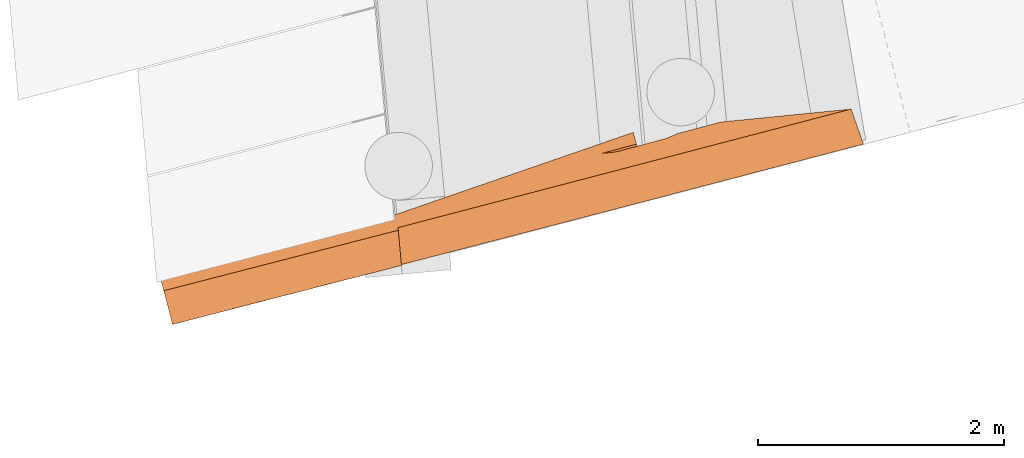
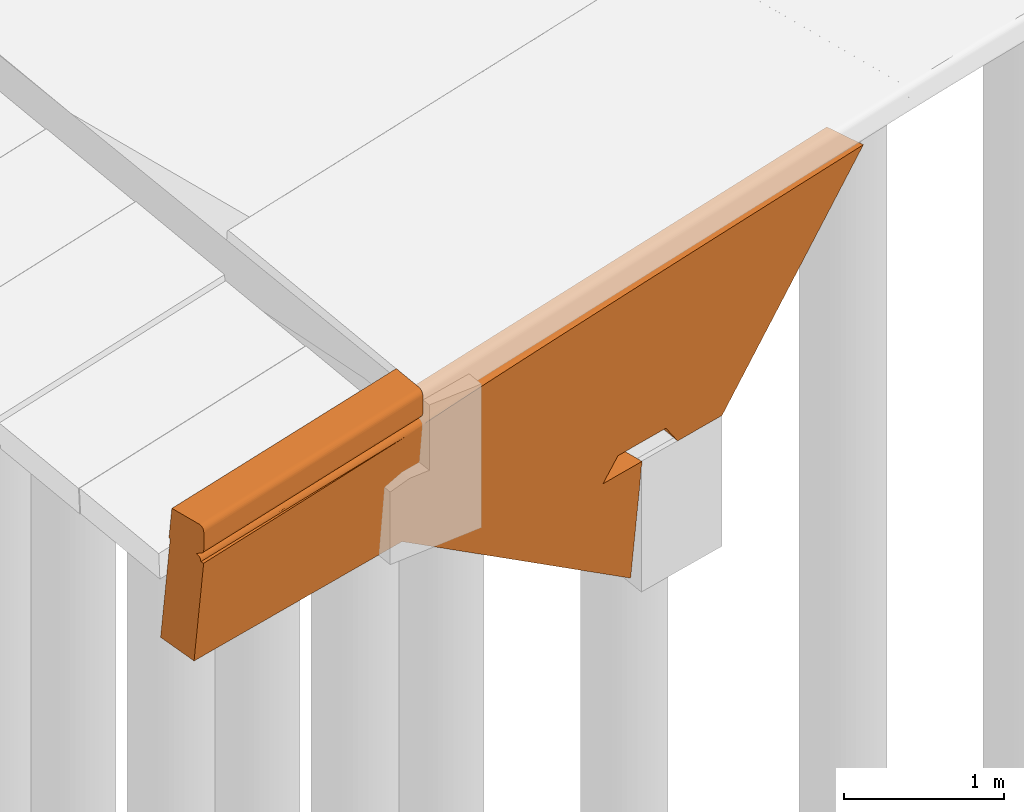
# One storey, part 14 of 15: 1 proxy.
"""IFC2X3 building model written with IfcOpenShell, lengths in millimetres."""

from ifc_helpers import new_model, entity, si_unit, converted_unit, derived_unit, direction, frame, origin, place, context, subcontext, project, spatial, faceted_brep, source, transform, mapped, material, type_object, type_shapes, element, save


model = new_model("IFC2X3")

# Units and contexts
model_context = context("Model", 3, precision=0.01, world=origin(), true_north=direction((6.12303176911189e-17, 1.0)))
body_context = subcontext(model_context, "Body", "Model", "MODEL_VIEW")
ifc_project = project(units=[si_unit("LENGTHUNIT", "METRE", prefix="MILLI"), si_unit("AREAUNIT", "SQUARE_METRE"), si_unit("VOLUMEUNIT", "CUBIC_METRE"), converted_unit("PLANEANGLEUNIT", "DEGREE", entity("IfcRatioMeasure", 0.0174532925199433), si_unit("PLANEANGLEUNIT", "RADIAN"), dimensions=[0, 0, 0, 0, 0, 0, 0]), si_unit("MASSUNIT", "GRAM", prefix="KILO"), derived_unit("MASSDENSITYUNIT", [(si_unit("MASSUNIT", "GRAM", prefix="KILO"), 1), (si_unit("LENGTHUNIT", "METRE"), -3)]), si_unit("TIMEUNIT", "SECOND"), si_unit("FREQUENCYUNIT", "HERTZ"), si_unit("THERMODYNAMICTEMPERATUREUNIT", "DEGREE_CELSIUS"), derived_unit("THERMALTRANSMITTANCEUNIT", [(si_unit("MASSUNIT", "GRAM", prefix="KILO"), 1), (si_unit("THERMODYNAMICTEMPERATUREUNIT", "KELVIN"), -1), (si_unit("TIMEUNIT", "SECOND"), -3)]), derived_unit("VOLUMETRICFLOWRATEUNIT", [(si_unit("LENGTHUNIT", "METRE"), 3), (si_unit("TIMEUNIT", "SECOND"), -1)]), si_unit("ELECTRICCURRENTUNIT", "AMPERE"), si_unit("ELECTRICVOLTAGEUNIT", "VOLT"), si_unit("POWERUNIT", "WATT"), si_unit("FORCEUNIT", "NEWTON", prefix="KILO"), si_unit("ILLUMINANCEUNIT", "LUX"), si_unit("LUMINOUSFLUXUNIT", "LUMEN"), si_unit("LUMINOUSINTENSITYUNIT", "CANDELA"), derived_unit("USERDEFINED", [(si_unit("MASSUNIT", "GRAM", prefix="KILO"), -1), (si_unit("LENGTHUNIT", "METRE"), -2), (si_unit("TIMEUNIT", "SECOND"), 3), (si_unit("LUMINOUSFLUXUNIT", "LUMEN"), 1)]), derived_unit("LINEARVELOCITYUNIT", [(si_unit("LENGTHUNIT", "METRE"), 1), (si_unit("TIMEUNIT", "SECOND"), -1)]), si_unit("PRESSUREUNIT", "PASCAL"), derived_unit("USERDEFINED", [(si_unit("LENGTHUNIT", "METRE"), -2), (si_unit("MASSUNIT", "GRAM", prefix="KILO"), 1), (si_unit("TIMEUNIT", "SECOND"), -2)])], contexts=[model_context])

# Site, building, storey
site_placement = place(None, origin())
site = spatial("IfcSite", under=ifc_project, at=site_placement, Name="Bruggen Achterburggracht Machinesloot", CompositionType="ELEMENT")
building_placement = place(site_placement, origin())
building = spatial("IfcBuilding", under=site, at=building_placement, Name="Bruggen Achterburggracht Machinesloot", CompositionType="ELEMENT")
storey_placement = place(building_placement, origin())
storey = spatial("IfcBuildingStorey", under=building, at=storey_placement, Name="00 begane grond", CompositionType="ELEMENT", Elevation=2.70716782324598e-13)

# Proxy
ifc_material = material(Name="00_PBT_MAT_beton t.p.g.")
building_element_proxy_type = type_object("IfcBuildingElementProxyType", Name="brug 1 vleugelwand", PredefinedType="NOTDEFINED", material=ifc_material)
shared_shape = source(origin(), body_context, "Body", "Brep", [
    faceted_brep([(1959.87306572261, 481.997808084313, 2428.92648551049), (1959.87306572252, 481.997808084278, 2566.93597365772), (1784.49340049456, 436.755674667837, 2557.44631371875), (1609.11374916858, 391.513544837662, 2547.956654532), (1433.7340978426, 346.271415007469, 2538.46699534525), (1258.35444651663, 301.029285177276, 2528.97733615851), (1143.54753400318, 271.412911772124, 2522.76522167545), (1028.74062148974, 241.796538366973, 2516.5531071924), (913.93372287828, 212.18016854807, 2510.34099346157), (799.126810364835, 182.563795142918, 2504.12887897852), (623.747145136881, 137.321661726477, 2494.63921903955), (448.367493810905, 92.0795318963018, 2485.1495598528), (272.987842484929, 46.8374020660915, 2475.65990066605), (97.6081911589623, 1.5952722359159, 2466.17024147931), (97.6081911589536, 1.5952722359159, 2328.16075333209), (243.624759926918, 39.2627012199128, 2336.06159851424), (389.641328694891, 76.9301302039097, 2343.96244369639), (490.166125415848, 102.862191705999, 2349.40176378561), (590.690922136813, 128.794253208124, 2354.84108387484), (691.21571885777, 154.726314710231, 2360.28040396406), (791.740515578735, 180.65837621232, 2365.71972405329), (937.757084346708, 218.325805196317, 2373.62056923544), (1083.77365311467, 255.993234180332, 2381.52141441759), (1229.79022188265, 293.660663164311, 2389.42225959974), (1375.80679065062, 331.328092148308, 2397.32310478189), (1521.8233594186, 368.995521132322, 2405.22394996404), (1667.83992818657, 406.662950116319, 2413.12479514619), (1813.85649695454, 444.330379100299, 2421.02564032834), (1822.54830991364, 452.613281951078, 2401.25132807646), (1959.11495294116, 490.298431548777, 2405.19296229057), (1959.52212124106, 485.84032079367, 2412.43496046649), (471.488243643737, 119.80557825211, 2313.94851706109), (558.680187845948, 142.298206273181, 2318.66640666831), (473.75988877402, 109.228262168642, 2322.39326032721), (384.296294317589, 97.3129489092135, 2309.23062717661), (1717.41040390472, 432.748751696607, 2387.07311685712), (1831.98246712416, 460.411462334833, 2395.05177068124), (1732.06712835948, 429.289385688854, 2396.32827128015), (1637.68638802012, 405.035400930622, 2391.07544922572), (1580.97297675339, 394.87836502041, 2382.27620796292), (224.030363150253, 36.4921970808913, 2322.43189069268), (97.349669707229, 2.58112120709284, 2319.7102050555), (95.5281557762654, 9.52730545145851, 2304.39035457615), (94.0452499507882, 15.1822372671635, 2298.21308391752), (221.819771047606, 44.9884118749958, 2307.98190934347), (323.82294974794, 65.9957239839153, 2320.15037134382), (183.243156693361, 29.7028555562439, 2312.5878535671), (1958.57622745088, 496.196970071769, 2399.07903419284), (1434.89065009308, 360.243525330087, 2371.45989870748), (1377.79835435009, 339.000733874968, 2375.51794488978), (1322.70647870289, 331.501891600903, 2365.22079476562), (1665.89814718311, 427.923695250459, 2378.57712607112), (335.707541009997, 76.3153777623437, 2312.31013096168), (1077.44556509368, 255.270140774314, 2373.36587512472), (1156.93579064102, 276.325456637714, 2375.48379682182), (238.279728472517, 59.6455206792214, 2301.32978215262), (96.6458219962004, 5.26518296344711, 2311.66664752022), (339.176631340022, 65.3882243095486, 2331.1738087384), (1811.91471302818, 465.591123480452, 2386.47797109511), (461.818597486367, 98.1017022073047, 2334.57567247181), (418.094174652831, 90.4252931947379, 2325.07767995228), (498.112950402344, 110.469714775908, 2330.36981912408), (1959.77883317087, 483.029566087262, 2420.47004067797), (1832.60402077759, 451.441418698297, 2409.49675206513), (1717.52383651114, 420.966593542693, 2405.71818143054), (864.876725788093, 201.340916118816, 2358.49125222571), (738.940367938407, 168.713186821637, 2352.12817589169), (1558.48253119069, 383.995012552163, 2387.77035175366), (1486.33528634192, 367.265206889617, 2381.02032831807), (92.2631575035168, 21.9780911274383, 2293.42893685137), (1957.93127887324, 503.258551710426, 2394.37881611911), (574.19941022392, 131.475146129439, 2332.35515848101), (536.610017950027, 117.645966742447, 2337.98391038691), (917.435062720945, 220.427684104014, 2350.34842779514), (1008.99201720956, 238.827084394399, 2365.356903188), (852.093829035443, 209.896042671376, 2339.92970725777), (735.324341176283, 179.478540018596, 2333.86700448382), (791.888703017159, 202.45826384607, 2331.28514157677), (968.424935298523, 240.156578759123, 2346.01067747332), (1025.71742606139, 248.820670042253, 2355.58238360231), (1260.97022674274, 308.038253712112, 2370.40867407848), (1308.13965606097, 315.80722498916, 2382.10708173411), (1025.09721818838, 262.618321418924, 2343.90387648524), (1089.81585730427, 271.028131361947, 2352.95879840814), (1236.23230407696, 296.228493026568, 2381.97290684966), (1216.6148551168, 293.50252353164, 2373.73474589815), (1448.93672574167, 352.083860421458, 2389.86122937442), (1594.7862737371, 390.367704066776, 2395.88507970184), (1491.51424853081, 382.938436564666, 2369.14134630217), (1374.9099909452, 352.858407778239, 2362.83197884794), (618.644437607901, 149.762068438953, 2327.22243862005), (690.725865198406, 160.990918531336, 2339.46651619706), (609.011110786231, 135.640399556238, 2343.72837852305), (553.569227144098, 119.907563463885, 2346.08485249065), (803.733796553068, 190.832098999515, 2344.5677832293), (1211.5098741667, 301.85491675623, 2360.04546085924), (1144.68617703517, 278.291290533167, 2363.73806265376), (1086.6377645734, 260.280667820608, 2366.01493865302), (675.284445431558, 172.378235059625, 2324.97577412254), (908.492960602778, 232.538292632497, 2337.59450903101), (1141.70147577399, 292.698350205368, 2350.21324393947), (1258.30573335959, 322.778378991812, 2356.52261139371), (1578.70619785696, 405.431065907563, 2373.85923618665), (1953.30148475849, 553.950452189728, 2367.84583769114), (79.5190165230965, 70.576759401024, 2266.45689730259), (1933.6906528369, 768.670656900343, 2608.05888764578), (1931.29480024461, 794.90299426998, 2369.88282649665), (18.9426100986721, 301.579593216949, 2266.40690786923), (25.5375217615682, 276.430473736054, 2504.81017690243), (1956.18702270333, 522.356519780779, 2606.07437294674), (87.4618540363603, 40.2874424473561, 2504.95907918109), (262.841514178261, 85.5295643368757, 2514.42398126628), (578.086446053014, 127.350949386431, 2502.58224675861), (530.575456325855, 119.133759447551, 2508.93370215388), (424.610783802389, 88.0048478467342, 2495.03470915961), (96.4976103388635, 5.83037517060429, 2483.09120227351), (97.2847573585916, 2.82865877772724, 2474.86953160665), (254.151068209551, 44.6573381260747, 2487.54429966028), (752.201604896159, 185.117337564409, 2531.15560553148), (908.731409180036, 227.802308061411, 2541.41661362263), (796.282785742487, 203.092829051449, 2538.05461265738), (1959.01954087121, 491.343104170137, 2591.3929133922), (1958.43924469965, 497.696802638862, 2597.55048613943), (1806.03661581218, 455.031598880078, 2586.45229115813), (250.162082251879, 53.488557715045, 2502.09452498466), (95.2794996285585, 10.4755339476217, 2490.44700334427), (216.818058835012, 39.1316175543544, 2493.42705977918), (1806.82923580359, 445.267626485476, 2571.74035570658), (1631.1579675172, 399.36670130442, 2560.65144881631), (1605.4277083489, 431.872246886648, 2587.07029636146), (1632.20914838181, 427.25084857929, 2586.82552803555), (1780.80736598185, 477.114378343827, 2596.55995588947), (1959.46481590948, 486.467760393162, 2583.99778608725), (1841.9830357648, 458.487958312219, 2581.53886217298), (352.005195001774, 86.9065582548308, 2513.10029907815), (523.03150397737, 132.403047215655, 2523.15822623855), (439.464644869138, 120.411427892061, 2522.52547636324), (1361.82530624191, 328.751121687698, 2542.14606922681), (1479.72703396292, 360.3862933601, 2552.69793159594), (1344.26373733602, 327.217378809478, 2549.62213773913), (1459.52689128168, 394.234678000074, 2579.17571441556), (1313.62607421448, 356.5971091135, 2571.28113246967), (1388.32955348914, 368.738628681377, 2574.66291601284), (1840.83443819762, 471.155587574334, 2593.76908431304), (1957.75141723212, 505.227867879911, 2602.17872033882), (1959.75393271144, 483.302202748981, 2575.71490096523), (698.645106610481, 157.556724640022, 2505.75326597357), (1705.87133519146, 436.422005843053, 2586.51586375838), (1804.69740690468, 470.045122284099, 2595.62222965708), (1666.28958143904, 419.045508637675, 2578.95117458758), (1956.98864607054, 513.579496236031, 2605.05761836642), (1045.43952961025, 270.378858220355, 2553.0422926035), (1108.52488128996, 278.959277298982, 2551.94725210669), (454.924188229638, 107.892135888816, 2514.61363296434), (595.550326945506, 142.55137298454, 2520.74878000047), (213.715066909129, 51.2444331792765, 2505.62492019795), (93.684412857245, 16.5582579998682, 2496.5782622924), (91.786660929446, 23.7951691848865, 2501.17736734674), (1707.00496047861, 423.711163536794, 2574.2989805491), (246.454872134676, 67.8975621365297, 2511.24801508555), (89.6779310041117, 31.8366265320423, 2504.01011366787), (359.861683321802, 76.0176197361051, 2501.14529429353), (408.742331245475, 123.16713322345, 2522.31856321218), (554.64314831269, 160.804702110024, 2530.21314515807), (581.363411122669, 158.207856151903, 2530.5061380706), (731.635929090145, 199.146924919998, 2539.0958949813), (698.054290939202, 182.801287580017, 2535.10011275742), (874.312764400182, 229.33455679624, 2545.03510950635), (1211.14500915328, 318.791817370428, 2564.08891099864), (1390.46563211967, 360.938111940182, 2572.37483664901), (1482.53745876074, 371.73413194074, 2569.09364364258), (1541.60644008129, 395.337219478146, 2578.37005899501), (1369.12150930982, 344.167110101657, 2564.45704521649), (1036.33919564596, 247.905324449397, 2533.20994328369), (1030.3233602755, 243.399548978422, 2524.88501226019), (1142.40744712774, 273.377358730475, 2534.46944754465), (1542.71381214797, 380.630473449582, 2564.34241867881), (1198.27012555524, 292.760565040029, 2547.18832626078), (1258.75869548, 303.174858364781, 2540.13257217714), (1502.30416478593, 393.901216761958, 2579.8433107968), (1333.77218163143, 329.751290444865, 2557.20346145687), (1251.51238542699, 314.282963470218, 2558.47007316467), (1200.20174841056, 307.831207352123, 2560.20325491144), (1040.2041023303, 255.002297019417, 2542.46479157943), (848.679519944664, 203.815851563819, 2529.95794540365), (705.172260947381, 166.880616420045, 2522.30209142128), (709.772147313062, 163.207063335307, 2514.58912707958), (1167.72525714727, 318.959540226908, 2563.38655052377), (1079.67538946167, 287.758330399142, 2557.69577593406), (806.423616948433, 186.327125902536, 2515.16708623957), (924.090897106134, 217.337163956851, 2523.42063593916), (813.263700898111, 190.927861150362, 2522.24634432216), (671.438471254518, 190.934019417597, 2536.53285101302), (905.029117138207, 251.192654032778, 2549.17226272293), (788.233794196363, 221.063336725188, 2542.85255686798), (646.125019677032, 161.821455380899, 2528.41301646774), (1021.82444008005, 281.321971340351, 2555.49196857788)], [[[0, 1, 2, 3, 4, 5, 6, 7, 8, 9, 10, 11, 12, 13, 14, 15, 16, 17, 18, 19, 20, 21, 22, 23, 24, 25, 26, 27]], [[28, 29, 30]], [[31, 32, 33, 34]], [[35, 36, 37]], [[35, 38, 39]], [[40, 15, 41]], [[42, 43, 44]], [[44, 45, 46]], [[47, 29, 36]], [[48, 49, 50]], [[35, 39, 51]], [[33, 52, 34]], [[53, 54, 22]], [[55, 52, 44]], [[46, 40, 56]], [[57, 40, 45]], [[36, 58, 47]], [[59, 60, 61]], [[30, 62, 63]], [[40, 41, 56]], [[27, 64, 63]], [[65, 20, 66]], [[39, 67, 68]], [[42, 44, 46]], [[15, 14, 41]], [[36, 29, 28]], [[62, 0, 27]], [[43, 69, 55]], [[58, 70, 47]], [[16, 15, 57]], [[37, 63, 64]], [[63, 62, 27]], [[45, 44, 52]], [[44, 43, 55]], [[51, 58, 35]], [[37, 28, 63]], [[71, 72, 61]], [[73, 74, 65]], [[75, 76, 77]], [[78, 79, 73]], [[80, 49, 81]], [[82, 83, 78]], [[84, 54, 85]], [[81, 86, 24]], [[38, 87, 67]], [[88, 48, 89]], [[64, 26, 87]], [[57, 60, 59]], [[90, 76, 91]], [[48, 39, 68]], [[25, 86, 87]], [[72, 92, 93]], [[42, 46, 56]], [[71, 33, 90]], [[94, 65, 66]], [[73, 75, 78]], [[24, 86, 25]], [[87, 26, 25]], [[49, 86, 81]], [[95, 80, 96]], [[40, 57, 15]], [[22, 54, 23]], [[84, 81, 24]], [[16, 57, 59]], [[38, 37, 64]], [[26, 64, 27]], [[23, 54, 84]], [[97, 74, 79]], [[97, 53, 74]], [[21, 65, 74]], [[20, 65, 21]], [[21, 53, 22]], [[94, 73, 65]], [[91, 66, 92]], [[66, 19, 92]], [[91, 92, 71]], [[17, 59, 93]], [[98, 77, 76]], [[61, 60, 33]], [[90, 98, 76]], [[98, 90, 32]], [[73, 94, 75]], [[87, 38, 64]], [[91, 71, 90]], [[91, 76, 94]], [[99, 78, 75]], [[82, 78, 99]], [[75, 77, 99]], [[83, 79, 78]], [[96, 83, 95]], [[83, 100, 95]], [[96, 85, 54]], [[80, 50, 49]], [[75, 94, 76]], [[66, 91, 94]], [[73, 79, 74]], [[79, 83, 96]], [[101, 95, 100]], [[83, 82, 100]], [[48, 50, 89]], [[49, 48, 68]], [[101, 50, 95]], [[39, 48, 88]], [[89, 50, 101]], [[80, 95, 50]], [[68, 86, 49]], [[87, 86, 67]], [[60, 45, 52]], [[34, 52, 55]], [[36, 35, 58]], [[102, 51, 39, 88]], [[18, 92, 19]], [[66, 20, 19]], [[40, 46, 45]], [[63, 28, 30]], [[28, 37, 36]], [[90, 33, 32]], [[37, 38, 35]], [[38, 67, 39]], [[68, 67, 86]], [[33, 60, 52]], [[45, 60, 57]], [[59, 61, 72]], [[71, 61, 33]], [[17, 16, 59]], [[92, 72, 71]], [[72, 93, 59]], [[18, 93, 92]], [[93, 18, 17]], [[23, 84, 24]], [[80, 81, 85]], [[84, 85, 81]], [[80, 85, 96]], [[96, 54, 97]], [[74, 53, 21]], [[53, 97, 54]], [[96, 97, 79]], [[103, 70, 58, 51, 102, 88, 89, 101, 100, 82, 99, 77, 98, 32, 31, 34, 55, 69, 104]], [[105, 106, 107, 108]], [[109, 105, 108]], [[108, 110, 111]], [[112, 113, 114]], [[115, 116, 117]], [[118, 119, 120]], [[121, 122, 123]], [[124, 125, 126]], [[127, 128, 2]], [[129, 130, 131]], [[11, 114, 12]], [[132, 121, 133]], [[134, 135, 136]], [[137, 138, 139]], [[140, 141, 142]], [[143, 122, 144]], [[2, 1, 145]], [[112, 10, 146]], [[147, 123, 143]], [[117, 12, 114]], [[131, 130, 148]], [[123, 147, 149]], [[144, 150, 148]], [[151, 119, 152]], [[153, 135, 134]], [[153, 154, 135]], [[124, 155, 156]], [[156, 155, 157]], [[127, 133, 158]], [[124, 156, 125]], [[134, 159, 155]], [[111, 110, 160]], [[134, 124, 153]], [[127, 145, 132]], [[127, 158, 128]], [[160, 157, 159]], [[136, 159, 134]], [[144, 148, 143]], [[150, 109, 131]], [[126, 125, 115]], [[116, 13, 12]], [[126, 117, 161]], [[114, 161, 117]], [[117, 116, 12]], [[121, 123, 133]], [[158, 123, 149]], [[159, 111, 160]], [[162, 111, 136, 163]], [[130, 147, 148]], [[148, 150, 131]], [[127, 2, 145]], [[3, 2, 128]], [[159, 136, 111]], [[164, 163, 136]], [[165, 166, 167]], [[168, 169, 142]], [[170, 171, 172]], [[173, 174, 175]], [[138, 4, 3]], [[176, 128, 158]], [[170, 176, 149]], [[138, 176, 139]], [[139, 177, 178]], [[149, 147, 171]], [[142, 169, 179]], [[129, 179, 130]], [[171, 147, 130]], [[170, 172, 180]], [[152, 181, 182]], [[157, 155, 159]], [[134, 155, 124]], [[122, 143, 123]], [[147, 143, 148]], [[132, 133, 127]], [[158, 133, 123]], [[153, 161, 113]], [[114, 11, 112]], [[113, 161, 114]], [[183, 184, 173]], [[137, 139, 178]], [[154, 113, 185]], [[186, 113, 112]], [[139, 180, 177]], [[152, 177, 181]], [[119, 184, 183]], [[168, 187, 188]], [[5, 178, 6]], [[189, 146, 9]], [[169, 171, 179]], [[128, 176, 138]], [[139, 176, 180]], [[174, 6, 175]], [[177, 173, 175]], [[174, 8, 7, 6]], [[189, 190, 191]], [[128, 138, 3]], [[4, 138, 137]], [[185, 118, 154]], [[120, 167, 166]], [[184, 119, 118]], [[165, 192, 164]], [[188, 193, 167]], [[151, 167, 119]], [[167, 194, 165]], [[186, 112, 146]], [[10, 112, 11]], [[137, 5, 4]], [[175, 6, 178]], [[179, 129, 140]], [[169, 182, 181]], [[151, 168, 188]], [[168, 142, 141]], [[142, 179, 140]], [[130, 179, 171]], [[136, 135, 164]], [[118, 195, 154]], [[185, 191, 184]], [[195, 135, 154]], [[137, 178, 5]], [[175, 178, 177]], [[118, 185, 184]], [[186, 185, 113]], [[186, 146, 189]], [[146, 10, 9]], [[186, 189, 191]], [[189, 8, 190]], [[186, 191, 185]], [[184, 191, 190]], [[158, 149, 176]], [[170, 149, 171]], [[154, 153, 113]], [[161, 153, 124]], [[124, 126, 161]], [[117, 126, 115]], [[183, 177, 152]], [[181, 177, 180]], [[181, 180, 172]], [[170, 180, 176]], [[172, 169, 181]], [[169, 172, 171]], [[192, 163, 164]], [[166, 164, 135]], [[194, 192, 165]], [[196, 193, 188, 187]], [[166, 165, 164]], [[183, 152, 119]], [[168, 151, 182]], [[152, 182, 151]], [[168, 182, 169]], [[8, 189, 9]], [[190, 174, 173]], [[190, 173, 184]], [[183, 173, 177]], [[190, 8, 174]], [[193, 194, 167]], [[151, 188, 167]], [[168, 141, 187]], [[195, 166, 135]], [[166, 195, 120]], [[167, 120, 119]], [[118, 120, 195]], [[106, 103, 104, 107]], [[125, 156, 157, 160, 110, 108, 107, 104, 69, 43, 42, 56, 41, 14, 13, 116, 115]], [[150, 144, 122, 121, 132, 145, 1, 0, 62, 30, 29, 47, 70, 103, 106, 105, 109]], [[108, 111, 162, 163, 192, 194, 193, 196, 187, 141, 140, 129, 131]], [[108, 131, 109]]]),
    faceted_brep([(5618.22194929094, 1754.54200069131, 2569.27052434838), (4555.62338941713, 1648.66409277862, 977.889462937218), (4205.36201439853, 1554.90922741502, 977.615295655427), (4114.74163289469, 1515.59741047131, 1111.66034831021), (3703.72020820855, 1405.54271679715, 1111.66034831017), (3587.94932814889, 1393.26951399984, 944.850058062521), (3870.74519615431, 1468.99065834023, 944.850058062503), (3845.28136662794, 1564.60728056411, 32.3413179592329), (1778.867108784, 850.093363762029, 1468.45634915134), (0.0, 373.815581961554, 1468.18971720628), (21.9515410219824, 290.105298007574, 2266.25683531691), (1849.13049880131, 460.89072607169, 2320.32566460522), (97.373684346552, 2.48954347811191, 2225.47565631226), (75.6542830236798, 85.314582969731, 1435.84817624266), (1856.00919240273, 561.990711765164, 1436.11503119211), (3922.42345024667, 1276.50462856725, 0.0), (3942.75128535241, 1200.17365376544, 728.457877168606), (3944.56962825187, 1180.17004350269, 910.991066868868), (3947.84943464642, 1181.03011470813, 911.152541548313), (3948.78977393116, 1177.49914282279, 944.850058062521), (3612.97103567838, 1087.58064673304, 944.850058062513), (3728.74191573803, 1099.85384953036, 1111.66034831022), (4139.76334042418, 1209.90854320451, 1111.66034831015), (4252.26388495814, 1258.71214278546, 945.250307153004), (4632.76547303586, 1360.56144078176, 945.548144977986), (5717.95171622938, 1468.68999794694, 2570.75723214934), (4895.70283728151, 1253.52322628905, 2526.23603357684), (4696.96070682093, 1201.54170694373, 2515.24796967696), (4537.3271223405, 1159.78912916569, 2506.42214083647), (4358.95499239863, 1113.17204342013, 2496.23419079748), (4180.58286245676, 1066.55495767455, 2486.04624075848), (4005.95700791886, 1020.95372570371, 2475.74466900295), (3831.33115338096, 975.35249373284, 2465.44309724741), (3495.30999271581, 887.680139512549, 2444.95120768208), (3178.04000803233, 804.978299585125, 2424.90724160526), (2884.73375624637, 728.605715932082, 2405.64050944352), (2620.21008441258, 659.817144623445, 2387.46755213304), (2388.81495893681, 599.742740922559, 2370.68694054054), (2194.35006393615, 549.36949150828, 2355.57437012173), (2040.0103418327, 509.524998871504, 2342.37813140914), (1928.33150235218, 480.86388429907, 2331.31503074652), (1861.14836232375, 463.857032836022, 2322.56682828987), (80.995379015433, 64.9467800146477, 2266.43549897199), (295.100054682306, 117.801450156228, 2277.98853925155), (509.205052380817, 170.656199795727, 2289.54159690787), (723.310050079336, 223.510949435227, 2301.09465456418), (937.414725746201, 276.365619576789, 2312.64769484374), (1284.67208256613, 362.09085183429, 2331.38562393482), (1631.92943938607, 447.816084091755, 2350.1235530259), (1825.79635794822, 495.674786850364, 2360.58456847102), (2019.66295447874, 543.533410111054, 2371.04556653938), (2213.52955100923, 591.392033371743, 2381.50656460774), (2407.39646957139, 639.250736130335, 2391.96758005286), (2601.26338813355, 687.109438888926, 2402.42859549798), (2795.1303066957, 734.968141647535, 2412.8896109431), (2988.99722525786, 782.826844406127, 2423.35062638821), (3182.86382178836, 830.685467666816, 2433.81162445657), (3396.96881948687, 883.540217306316, 2445.36468211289), (3611.07349515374, 936.394887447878, 2456.91772239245), (3825.17849285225, 989.249637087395, 2468.47078004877), (4039.28349055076, 1042.10438672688, 2480.02383770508), (4253.38816621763, 1094.95905686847, 2491.57687798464), (4467.49316391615, 1147.81380650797, 2503.12993564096), (4681.59816161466, 1200.66855614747, 2514.68299329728), (2374.16915448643, 602.630755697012, 2378.15432707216), (2111.75529877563, 535.170006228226, 2361.10333747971), (605.183245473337, 178.929185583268, 2291.35895608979), (326.023925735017, 110.017317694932, 2276.29661373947), (404.195570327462, 120.209969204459, 2275.22598621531), (889.750970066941, 251.928876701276, 2307.77031827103), (632.937613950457, 193.945962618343, 2295.38770655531), (403.97276406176, 137.033899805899, 2282.95210395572), (1175.07292314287, 295.759414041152, 2294.81485652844), (1411.07587644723, 356.840794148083, 2315.10880050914), (1137.65291750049, 290.332386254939, 2302.23447206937), (1954.27068847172, 491.87841415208, 2346.21449038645), (3213.01484950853, 824.966692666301, 2432.96024271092), (2888.80367162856, 740.711706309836, 2413.69115053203), (1460.13446661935, 397.706161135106, 2339.93048124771), (83.5644438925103, 55.1498755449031, 2264.97204577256), (85.9548795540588, 46.0341579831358, 2260.98317042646), (2524.98276898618, 650.540782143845, 2393.88408229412), (2601.26567346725, 661.747851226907, 2393.12225721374), (3721.63242390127, 955.83091105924, 2461.92653508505), (3492.33061617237, 897.124397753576, 2449.03996822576), (1738.32565603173, 434.788004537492, 2325.13843798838), (1632.71294172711, 407.464622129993, 2310.24050422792), (90.6083804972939, 28.2884386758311, 2237.18883878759), (447.406560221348, 118.104691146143, 2261.29148607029), (89.5959992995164, 32.1490659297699, 2246.62160114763), (1517.78271576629, 380.235923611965, 2312.81138395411), (1666.89120526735, 419.800330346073, 2328.51799625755), (1560.51190769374, 402.650779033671, 2335.08965411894), (1341.43044720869, 344.58819132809, 2319.03383262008), (1552.6800157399, 395.198705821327, 2328.41980875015), (88.0102375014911, 38.1962300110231, 2254.72993562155), (340.855011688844, 97.1204652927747, 2264.465564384), (1404.27752113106, 351.072211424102, 2297.91418016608), (1281.46909122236, 336.610372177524, 2322.43572175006), (1749.05417461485, 446.007291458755, 2341.97128068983), (2165.48591442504, 554.964161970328, 2370.23086702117), (815.548471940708, 207.985827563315, 2278.60969597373), (947.401465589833, 238.286102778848, 2273.2612506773), (2973.13899761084, 770.894216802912, 2421.50265088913), (1072.02749991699, 280.184294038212, 2306.88159755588), (2442.53037461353, 638.612008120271, 2392.56278922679), (2694.58481508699, 700.332854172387, 2406.03233569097), (707.504761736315, 187.623264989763, 2284.23753358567), (615.561779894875, 170.178791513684, 2284.82253438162), (519.193901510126, 132.577203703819, 2250.155266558), (411.588707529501, 106.805174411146, 2251.5653342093), (305.087512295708, 79.7221105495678, 2238.6021338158), (642.346914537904, 163.744792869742, 2263.88793377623), (733.295076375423, 185.431009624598, 2261.7081179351), (1918.11695548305, 494.626423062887, 2357.42790679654), (838.660927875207, 225.820871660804, 2297.34943566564), (1175.83688618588, 294.678513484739, 2285.58757473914), (927.034644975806, 240.212645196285, 2293.89244059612), (2157.93398750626, 563.461715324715, 2375.63857523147), (1709.55846706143, 443.676080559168, 2346.55900590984), (1513.35251546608, 397.561291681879, 2337.50095909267), (1780.40270689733, 471.997114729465, 2355.89762207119), (1217.10977091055, 333.547325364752, 2325.70321250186), (1043.02492109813, 281.150908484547, 2311.93451720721), (837.282682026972, 231.977479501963, 2301.79229471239), (1321.39766518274, 352.959035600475, 2328.7064302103), (90.9811230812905, 26.8670173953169, 2227.0490010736), (2118.22280140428, 561.01938992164, 2375.61443741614), (90.9810079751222, 26.867456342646, 2225.45631239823), (3947.84471513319, 1181.02887709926, 944.850058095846), (3942.76795757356, 1199.99024247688, 944.850058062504), (3944.56962825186, 1180.1700435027, 944.850058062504)], [[[0, 1, 2, 3, 4, 5, 6, 7, 8, 9, 10]], [[11, 12, 13, 14, 15, 16, 17, 18, 19, 20, 21, 22, 23, 24, 25, 26, 27, 28, 29, 30, 31, 32, 33, 34, 35, 36, 37, 38, 39, 40, 41]], [[1, 0, 25, 24]], [[9, 8, 14, 13]], [[10, 42, 43, 44, 45, 46, 47, 48, 49, 50, 51, 52, 53, 54, 55, 56, 57, 58, 59, 60, 61, 62, 63, 26, 25, 0]], [[64, 65, 37]], [[66, 67, 68]], [[69, 70, 66]], [[44, 43, 71]], [[72, 73, 74]], [[75, 39, 38]], [[70, 44, 71]], [[76, 77, 34]], [[78, 48, 47]], [[79, 80, 67]], [[77, 81, 82]], [[60, 31, 30]], [[83, 58, 84]], [[85, 86, 41]], [[61, 30, 29]], [[87, 88, 89]], [[90, 85, 91]], [[38, 65, 75]], [[39, 75, 85]], [[92, 93, 94]], [[68, 95, 96]], [[97, 90, 72]], [[68, 80, 95]], [[32, 83, 84]], [[98, 93, 92]], [[65, 38, 37]], [[28, 27, 26, 63, 62]], [[91, 75, 99]], [[81, 64, 82]], [[100, 65, 64]], [[101, 102, 72]], [[62, 29, 28]], [[76, 103, 77]], [[37, 36, 64]], [[74, 93, 104]], [[86, 90, 97]], [[35, 34, 77]], [[40, 85, 41]], [[105, 81, 106]], [[107, 108, 96]], [[109, 110, 111]], [[99, 75, 65]], [[87, 111, 110]], [[101, 112, 113]], [[99, 65, 114]], [[85, 75, 91]], [[95, 89, 96]], [[79, 43, 42]], [[61, 60, 30]], [[115, 108, 107]], [[73, 91, 94]], [[72, 102, 116, 97]], [[91, 73, 90]], [[117, 101, 74]], [[76, 34, 33]], [[77, 103, 106]], [[107, 88, 101]], [[88, 110, 112]], [[82, 64, 36]], [[76, 84, 57]], [[81, 118, 100]], [[92, 119, 120]], [[94, 91, 99]], [[120, 119, 121]], [[46, 69, 122]], [[47, 46, 122]], [[115, 107, 117]], [[89, 88, 96]], [[107, 96, 88]], [[68, 67, 80]], [[71, 79, 67]], [[84, 76, 33]], [[66, 70, 71]], [[74, 73, 93]], [[72, 90, 73]], [[98, 104, 93]], [[101, 72, 74]], [[115, 104, 123]], [[117, 74, 104]], [[103, 56, 55, 54]], [[105, 106, 53]], [[79, 71, 43]], [[66, 71, 67]], [[115, 123, 124]], [[69, 45, 70]], [[122, 78, 47]], [[124, 123, 69]], [[69, 123, 122]], [[125, 123, 98]], [[120, 121, 78]], [[45, 69, 46]], [[45, 44, 70]], [[108, 66, 68]], [[87, 126, 111]], [[112, 110, 109]], [[87, 110, 88]], [[113, 102, 101]], [[88, 112, 101]], [[112, 109, 113]], [[36, 35, 82]], [[77, 82, 35]], [[52, 51, 105, 53]], [[118, 121, 114]], [[100, 114, 65]], [[78, 121, 48]], [[121, 118, 127]], [[81, 100, 64]], [[118, 114, 100]], [[108, 115, 124]], [[96, 108, 68]], [[32, 84, 33]], [[57, 56, 76]], [[86, 85, 90]], [[39, 85, 40]], [[115, 117, 104]], [[101, 117, 107]], [[78, 122, 125]], [[127, 49, 121]], [[69, 66, 124]], [[108, 124, 66]], [[83, 32, 31]], [[31, 59, 83]], [[59, 31, 60]], [[56, 103, 76]], [[59, 58, 83]], [[106, 103, 54]], [[77, 106, 81]], [[51, 127, 105]], [[118, 81, 105]], [[84, 58, 57]], [[50, 49, 127, 51]], [[105, 127, 118]], [[29, 62, 61]], [[92, 94, 99]], [[73, 94, 93]], [[119, 99, 114]], [[92, 120, 98]], [[99, 119, 92]], [[121, 119, 114]], [[125, 98, 120]], [[104, 98, 123]], [[78, 125, 120]], [[123, 125, 122]], [[49, 48, 121]], [[106, 54, 53]], [[95, 80, 79, 42, 10, 9, 13, 12, 128, 126, 87, 89]], [[2, 1, 24, 23]], [[129, 19, 18]], [[7, 6, 130, 16, 15]], [[8, 7, 15, 14]], [[5, 4, 21, 20]], [[19, 131, 130, 6, 5, 20]], [[129, 131, 19]], [[3, 2, 23, 22]], [[4, 3, 22, 21]], [[12, 11, 128]], [[11, 41, 86, 97, 116, 102, 113, 109, 111, 126, 128]], [[17, 16, 130, 131]], [[18, 17, 131, 129]]]),
])
type_shapes(building_element_proxy_type, [shared_shape])
proxy_placement = place(storey_placement, frame((-74705.3411168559, 112366.801073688, -2294.8500580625)))
element("IfcBuildingElementProxy", 1, at=proxy_placement, inside=storey, type_object=building_element_proxy_type, material=ifc_material, Name="brug 1 vleugelwand4:brug 1 vleugelwand", ObjectType="brug 1 vleugelwand4:brug 1 vleugelwand", context=body_context, shape_type="MappedRepresentation", body=[
    mapped(shared_shape, transform((0.0, 0.0, 0.0), scale=1.0)),
])

save(model, "model.ifc")
